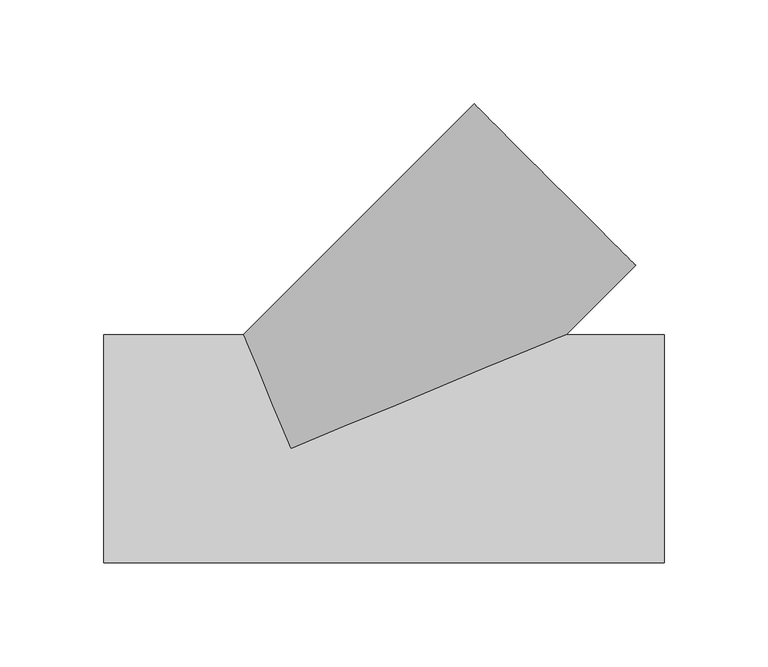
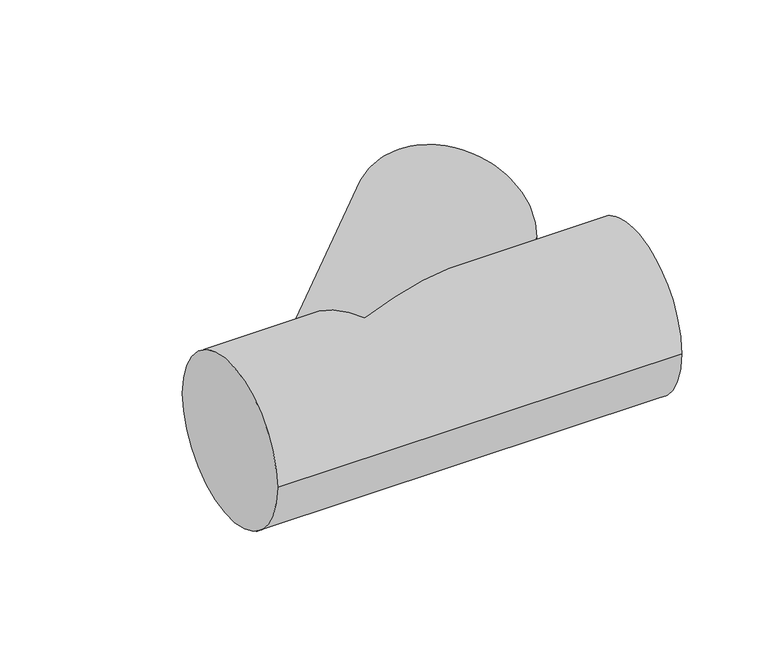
"""IFC4 building model written with IfcOpenShell, lengths in millimetres: pipe fitting geometry, NLRS_52_PFI_UN_PE T-stuk 45°_PRO_101557_geb : DN40-300 / ø40-315 - OD."""

import ifcopenshell
import ifcopenshell.guid

model = None  # the IFC model being written
_history = None  # IfcOwnerHistory: only IFC2X3 demands one
_inside = {}  # id of a spatial element -> (the spatial element, [elements in it])
_under = {}  # id of a project, library or spatial element -> (it, [spatial elements below it])
_declared = {}  # id of a project -> (the project, [libraries it declares])
_typed = {}  # id of a type object -> (the type object, [elements of that type])
_made_of = {}  # id of a material, layer set ... -> (it, [elements and type objects made of it])


def new_model(schema):
    """Start an empty IFC model of exactly this schema.

    Asked for "IFC4X3", IfcOpenShell would pick the latest addendum, in which some entities
    have other attributes; the version numbers below select the first issue.
    IFC2X3 requires an IfcOwnerHistory on every rooted entity: one is made here for all.
    """
    global model, _history
    if schema == "IFC4X3":
        model = ifcopenshell.file(schema_version=(4, 3, 0, 0))
    else:
        model = ifcopenshell.file(schema=schema)
    _inside.clear()
    _under.clear()
    _declared.clear()
    _typed.clear()
    _made_of.clear()
    _history = None
    if model.schema == "IFC2X3":
        org = make("IfcOrganization", Name="unknown")
        user = make(
            "IfcPersonAndOrganization",
            ThePerson=make("IfcPerson", FamilyName="unknown"),
            TheOrganization=org,
        )
        app = make(
            "IfcApplication",
            ApplicationDeveloper=org,
            Version="unknown",
            ApplicationFullName="unknown",
            ApplicationIdentifier="unknown",
        )
        _history = make(
            "IfcOwnerHistory",
            OwningUser=user,
            OwningApplication=app,
            ChangeAction="ADDED",
            CreationDate=0,
        )
    return model


def make(cls, **values):
    """One entity of the class cls with the attributes given. An attribute that is None is left unset."""
    return model.create_entity(
        cls, **{name: value for name, value in values.items() if value is not None}
    )


def rooted(cls, **values):
    """An entity with a GlobalId (a new one), such as an element, a storey or a relation."""
    return make(cls, GlobalId=ifcopenshell.guid.new(), OwnerHistory=_history, **values)


def si_unit(unit_type, name, prefix=None):
    """IfcSIUnit, for example si_unit("LENGTHUNIT", "METRE", prefix="MILLI")."""
    return make("IfcSIUnit", UnitType=unit_type, Prefix=prefix, Name=name)


def assignment(units):
    """IfcUnitAssignment: the units of a project."""
    return None if units is None else make("IfcUnitAssignment", Units=units)


def point(xyz):
    """IfcCartesianPoint."""
    return None if xyz is None else make("IfcCartesianPoint", Coordinates=xyz)


def direction(xyz):
    """IfcDirection."""
    return None if xyz is None else make("IfcDirection", DirectionRatios=xyz)


def frame(location, z_axis=None, x_axis=None):
    """IfcAxis2Placement3D, a coordinate frame: its origin and axes. An axis left out is left unset."""
    return make(
        "IfcAxis2Placement3D",
        Location=point(location),
        Axis=direction(z_axis),
        RefDirection=direction(x_axis),
    )


def origin():
    """The frame at (0, 0, 0) with its axes left unset."""
    return frame((0.0, 0.0, 0.0))


def place(relative_to, where):
    """IfcLocalPlacement: puts the frame where relative to a parent placement (None: the world)."""
    return make(
        "IfcLocalPlacement", PlacementRelTo=relative_to, RelativePlacement=where
    )


def context(
    kind, dimensions, precision=None, world=None, true_north=None, identifier=None
):
    """IfcGeometricRepresentationContext, for example the 3D "Model" context."""
    return make(
        "IfcGeometricRepresentationContext",
        ContextIdentifier=identifier,
        ContextType=kind,
        CoordinateSpaceDimension=dimensions,
        Precision=precision,
        WorldCoordinateSystem=world,
        TrueNorth=true_north,
    )


def project(units=None, contexts=None):
    """IfcProject with its units and contexts."""
    return rooted(
        "IfcProject",
        Name="project",
        RepresentationContexts=contexts,
        UnitsInContext=assignment(units),
    )


def spatial(cls, under=None, at=None, **own):
    """A site, building, storey or space (cls), placed at a placement, below another one or the project."""
    s = rooted(cls, ObjectPlacement=at, **own)
    if under is not None:
        _under.setdefault(under.id(), (under, []))[1].append(s)
    return s


def circle_curve(where, radius):
    """IfcCircle in the frame where."""
    return make("IfcCircle", Position=where, Radius=radius)


def ellipse_curve(where, semi_axis1, semi_axis2):
    """IfcEllipse in the frame where."""
    return make(
        "IfcEllipse", Position=where, SemiAxis1=semi_axis1, SemiAxis2=semi_axis2
    )


def shape(context_of_items, identifier, shape_type, items):
    """IfcShapeRepresentation: the items that make up one representation, for example the "Body"."""
    return make(
        "IfcShapeRepresentation",
        ContextOfItems=context_of_items,
        RepresentationIdentifier=identifier,
        RepresentationType=shape_type,
        Items=items,
    )


def source(mapping_origin, context_of_items, identifier, shape_type, items):
    """IfcRepresentationMap: a shape defined once, which mapped items show again and again."""
    return make(
        "IfcRepresentationMap",
        MappingOrigin=mapping_origin,
        MappedRepresentation=shape(context_of_items, identifier, shape_type, items),
    )


def transform(
    local_origin,
    x_axis=None,
    y_axis=None,
    z_axis=None,
    scale=None,
    scale2=None,
    scale3=None,
    uniform=True,
):
    """IfcCartesianTransformationOperator3D, or its non-uniform kind. x_axis, y_axis, z_axis: its Axis1, 2, 3."""
    if uniform:
        return make(
            "IfcCartesianTransformationOperator3D",
            Axis1=direction(x_axis),
            Axis2=direction(y_axis),
            LocalOrigin=point(local_origin),
            Scale=scale,
            Axis3=direction(z_axis),
        )
    return make(
        "IfcCartesianTransformationOperator3DnonUniform",
        Axis1=direction(x_axis),
        Axis2=direction(y_axis),
        LocalOrigin=point(local_origin),
        Scale=scale,
        Axis3=direction(z_axis),
        Scale2=scale2,
        Scale3=scale3,
    )


def mapped(mapping_source, mapping_target):
    """IfcMappedItem: shows the shape of a source again, moved by a transform."""
    return make(
        "IfcMappedItem", MappingSource=mapping_source, MappingTarget=mapping_target
    )


def made_of(thing, what):
    """Note that an element or type object is made of a material, layer set ...; save() writes the relation."""
    if what is not None:
        _made_of.setdefault(what.id(), (what, []))[1].append(thing)
    return thing


def element(
    cls,
    number,
    at=None,
    inside=None,
    cuts=None,
    type_object=None,
    material=None,
    context=None,
    identifier="Body",
    shape_type=None,
    held_by="IfcProductDefinitionShape",
    body=None,
    shapes=None,
    **own,
):
    """One element of the class cls, such as IfcWall. Its Tag is "e" and its number.

    at: its placement. inside: the storey or other place that contains it. cuts: it is an
    opening in that element (IfcRelVoidsElement). A single representation is given by context,
    identifier, shape_type and body (its items); several are given by shapes. held_by: the class
    of the entity that holds the representations. save() writes the other relations.
    """
    e = rooted(cls, Tag="e%d" % number, ObjectPlacement=at, **own)
    if body is not None:
        shapes = [shape(context, identifier, shape_type, body)]
    if shapes is not None:
        e.Representation = make(held_by, Representations=shapes)
    if inside is not None:
        _inside.setdefault(inside.id(), (inside, []))[1].append(e)
    if cuts is not None:
        rooted(
            "IfcRelVoidsElement", RelatingBuildingElement=cuts, RelatedOpeningElement=e
        )
    if type_object is not None:
        _typed.setdefault(type_object.id(), (type_object, []))[1].append(e)
    return made_of(e, material)


def aggregate(whole, parts):
    """IfcRelAggregates: a whole, such as a stair, and the parts it consists of."""
    return rooted("IfcRelAggregates", RelatingObject=whole, RelatedObjects=parts)


def save(model, path):
    """Write the relations noted so far, then the file.

    IfcRelAggregates (storeys below a building ...), IfcRelContainedInSpatialStructure (elements
    in a storey), IfcRelDefinesByType, IfcRelAssociatesMaterial and IfcRelDeclares: one each for
    every whole, place, type object, material and project.
    """
    for whole, parts in _under.values():
        aggregate(whole, parts)
    for where, things in _inside.values():
        rooted(
            "IfcRelContainedInSpatialStructure",
            RelatedElements=things,
            RelatingStructure=where,
        )
    for kind, things in _typed.values():
        rooted("IfcRelDefinesByType", RelatedObjects=things, RelatingType=kind)
    for what, things in _made_of.values():
        rooted("IfcRelAssociatesMaterial", RelatedObjects=things, RelatingMaterial=what)
    for by, libraries in _declared.values():
        rooted("IfcRelDeclares", RelatingContext=by, RelatedDefinitions=libraries)
    model.write(path)


def plane_surface(at):
    """IfcPlane: the flat surface through the origin of the frame at, square to its z axis."""
    return make("IfcPlane", Position=at)


def cylinder_surface(at, radius):
    """IfcCylindricalSurface: all points at the distance radius from the z axis of the frame at."""
    return make("IfcCylindricalSurface", Position=at, Radius=radius)


def advanced_brep(points, edges, surfaces, faces):
    """IfcAdvancedBrep: a solid bounded by faces that lie on surfaces and meet in shared edges.

    An edge is (start, end): straight between two places in points (the first is 0);
    or (start, end, curve); or (start, end, curve, False) where it runs against its curve.
    A face is (place in surfaces, loops), or (place, loops, False) where it looks against
    its surface's normal. A loop lists edges by number (the first is 1), with a minus sign
    where the edge is run from its end to its start. The first loop is the outer one.
    """
    corners = [point(p) for p in points]
    vertices = [make("IfcVertexPoint", VertexGeometry=c) for c in corners]
    made = []
    for start, end, *more in edges:
        made.append(
            make(
                "IfcEdgeCurve",
                EdgeStart=vertices[start],
                EdgeEnd=vertices[end],
                EdgeGeometry=more[0] if more else make("IfcPolyline", Points=[corners[start], corners[end]]),
                SameSense=more[1] if len(more) > 1 else True,
            )
        )
    hull = []
    for where, loops, *sense in faces:
        bounds = []
        for j, loop in enumerate(loops):
            ring = [make("IfcOrientedEdge", EdgeElement=made[abs(k) - 1], Orientation=k > 0) for k in loop]
            bounds.append(
                make(
                    "IfcFaceOuterBound" if j == 0 else "IfcFaceBound",
                    Bound=make("IfcEdgeLoop", EdgeList=ring),
                    Orientation=True,
                )
            )
        hull.append(make("IfcAdvancedFace", Bounds=bounds, FaceSurface=surfaces[where], SameSense=sense[0] if sense else True))
    return make("IfcAdvancedBrep", Outer=make("IfcClosedShell", CfsFaces=hull))


def pipe_fitting_d58c71f0(model_context):
    return source(origin(), model_context, "Body", "AdvancedBrep", [
        advanced_brep(
        [(180.0, -55.0, 0.0), (180.0, 55.0, 0.0), (-90.0, -55.0, 0.0), (-90.0, 55.0, 0.0), (-22.7817459, 55.0, 0.0), (0.0, 0.0, -55.0), (132.7817459, 55.0, 0.0), (0.0, 0.0, 55.0), (166.1700936, 88.3883476, 0.0), (88.3883476, 166.1700936, 0.0)],
        [
            (0, 1, circle_curve(frame((180.0, 0.0, 0.0), z_axis=(1.0, 0.0, 0.0), x_axis=(0.0, 1.0, 0.0)), 55.0)),
            (1, 0, circle_curve(frame((180.0, 0.0, 0.0), z_axis=(1.0, 0.0, 0.0), x_axis=(0.0, 1.0, 0.0)), 55.0)),
            (2, 3, circle_curve(frame((-90.0, 0.0, 0.0), z_axis=(-1.0, 0.0, 0.0), x_axis=(0.0, 1.0, 0.0)), 55.0)),
            (3, 2, circle_curve(frame((-90.0, 0.0, 0.0), z_axis=(-1.0, 0.0, 0.0), x_axis=(0.0, 1.0, 0.0)), 55.0)),
            (0, 2),
            (3, 4),
            (4, 5, ellipse_curve(frame((0.0, 0.0, 0.0), z_axis=(-0.9238795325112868, -0.3826834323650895, 0.0), x_axis=(0.38268343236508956, -0.9238795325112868, 0.0)), 59.531571, 55.0)),
            (5, 6, ellipse_curve(frame((0.0, 0.0, 0.0), z_axis=(0.3826834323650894, -0.9238795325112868, 0.0), x_axis=(0.923879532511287, 0.3826834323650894, 0.0)), 143.7219261, 55.0)),
            (6, 1),
            (6, 7, ellipse_curve(frame((0.0, 0.0, 0.0), z_axis=(0.3826834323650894, -0.9238795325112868, 0.0), x_axis=(0.923879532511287, 0.3826834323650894, 0.0)), 143.7219261, 55.0)),
            (7, 4, ellipse_curve(frame((0.0, 0.0, 0.0), z_axis=(-0.9238795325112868, -0.3826834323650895, 0.0), x_axis=(0.38268343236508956, -0.9238795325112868, 0.0)), 59.531571, 55.0)),
            (8, 9, circle_curve(frame((127.2792206, 127.2792206, 0.0), z_axis=(0.707106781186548, 0.7071067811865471, 0.0), x_axis=(-0.7071067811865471, 0.707106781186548, 0.0)), 55.0)),
            (9, 8, circle_curve(frame((127.2792206, 127.2792206, 0.0), z_axis=(0.707106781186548, 0.7071067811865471, 0.0), x_axis=(-0.7071067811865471, 0.707106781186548, 0.0)), 55.0)),
            (9, 4),
            (6, 8),
        ],
        [
            plane_surface(frame((180.0, 55.0, 0.0), z_axis=(1.0, 0.0, 0.0), x_axis=(0.0, 0.0, 1.0))),
            plane_surface(frame((-90.0, 55.0, 0.0), z_axis=(-1.0, 0.0, 0.0), x_axis=(0.0, 0.0, -1.0))),
            cylinder_surface(frame((-90.0, 0.0, 0.0), z_axis=(1.0, 0.0, 0.0), x_axis=(0.0, 1.0, 0.0)), 55.0),
            plane_surface(frame((127.2792206, 127.2792206, 0.0), z_axis=(0.707106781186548, 0.7071067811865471, 0.0), x_axis=(0.0, 0.0, 1.0))),
            cylinder_surface(frame((0.0, 0.0, 0.0), z_axis=(-0.707106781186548, -0.7071067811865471, 0.0), x_axis=(-0.7071067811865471, 0.707106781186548, 0.0)), 55.0),
        ],
        [
            (0, [[1, 2]]),
            (1, [[3, 4]]),
            (2, [[-1, 5, -4, 6, 7, 8, 9]]),
            (2, [[-2, -9, 10, 11, -6, -3, -5]]),
            (3, [[12, 13]]),
            (4, [[-13, 14, -11, -10, 15]]),
            (4, [[-12, -15, -8, -7, -14]]),
        ],
    ),
    ])


if __name__ == "__main__":
    model = new_model("IFC4")
    model_context = context("Model", 3, world=origin())
    ifc_project = project(units=[si_unit("LENGTHUNIT", "METRE", prefix="MILLI")], contexts=[model_context])
    site = spatial("IfcSite", under=ifc_project)
    building = spatial("IfcBuilding", under=site)
    placement = place(None, origin())
    pipe_fitting_shape = pipe_fitting_d58c71f0(model_context)
    element("IfcPipeFitting", 1, ObjectType="NLRS_52_PFI_UN_PE T-stuk 45°_PRO_101557_geb : DN40-300 / ø40-315 - OD", at=placement, inside=building, context=model_context, shape_type="MappedRepresentation", body=[
        mapped(pipe_fitting_shape, transform((0.0, 0.0, 0.0), x_axis=(1.0, 0.0, 0.0), y_axis=(0.0, 1.0, 0.0), z_axis=(0.0, 0.0, 1.0))),
    ])
    save(model, "model.ifc")
